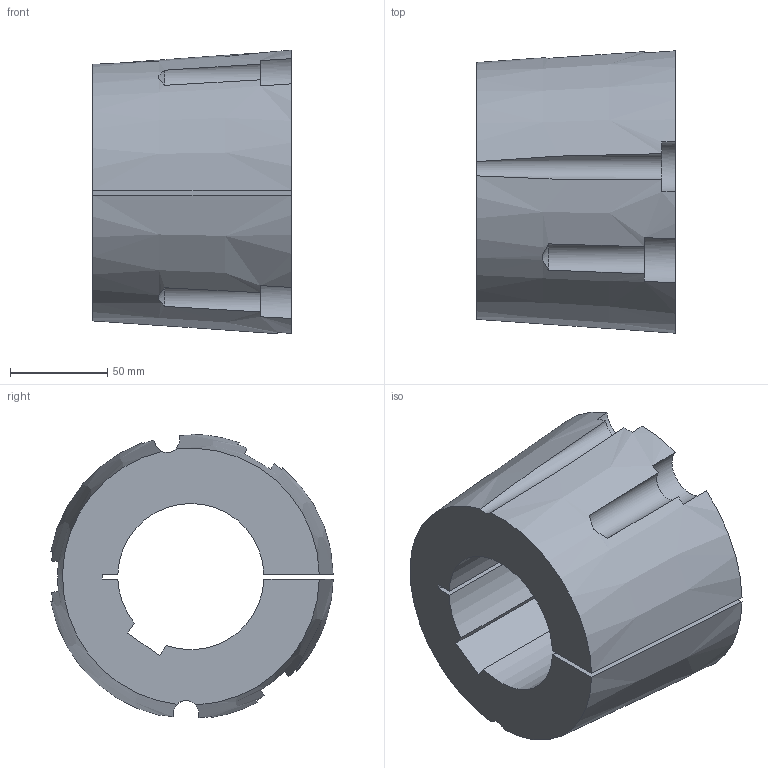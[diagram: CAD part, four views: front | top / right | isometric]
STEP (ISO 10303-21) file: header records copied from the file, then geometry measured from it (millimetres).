
FILE_DESCRIPTION( ( 'STEP AP203' ), '1' );
FILE_NAME( 'D:/export/antriebselemente/spannbuchsen_und_spannsaetze/taper-spannbuchsen_1008_bis_5050/taper-spannbuchsen_62251475Isometric_243.stp', '2018-12-11T11:11:33', ( '' ), ( '' ), ' ', 'PARTsolutions', ' ' );
FILE_SCHEMA( ( 'CONFIG_CONTROL_DESIGN' ) );
Length unit declared in the file: millimetre
Products named in the file (1): _taper-spannbuchsen_62251475
Bounding box: 102 x 144.84 x 145.4 mm (x, y, z)
Volume: 1031585.3 mm3; surface area: 101194.3 mm2
Topology: 1 solids, 1 shells, 34 faces, 96 edges, 64 vertices
Faces by surface type: plane 15, cylinder 13, cone 6
Entity records: 1310 total; most frequent: CARTESIAN_POINT 386, ORIENTED_EDGE 192, DIRECTION 186, EDGE_CURVE 96, AXIS2_PLACEMENT_3D 80, VERTEX_POINT 64, CIRCLE 45, ADVANCED_FACE 34
